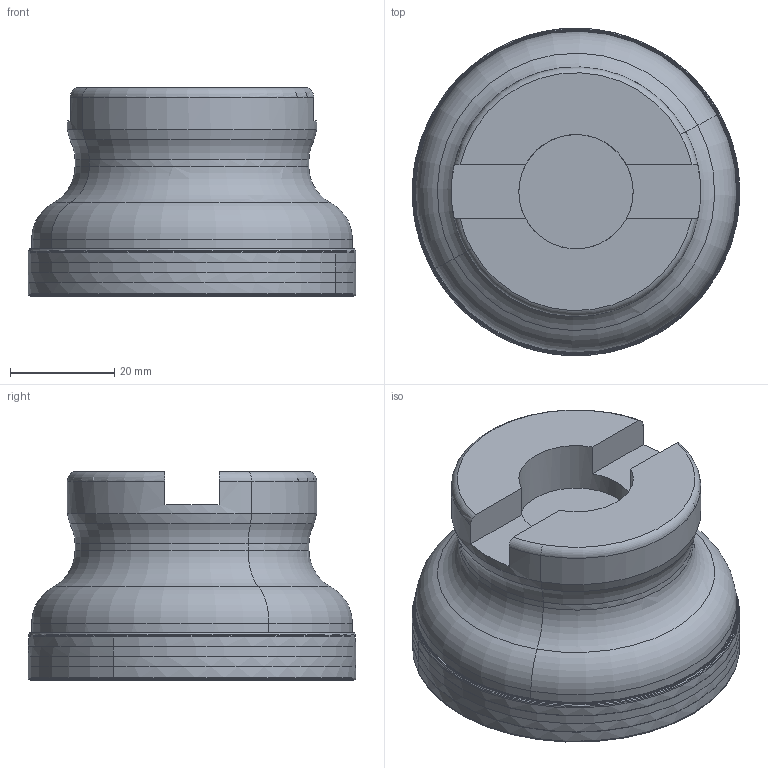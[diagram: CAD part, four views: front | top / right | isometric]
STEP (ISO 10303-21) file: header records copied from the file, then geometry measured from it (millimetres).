
FILE_DESCRIPTION(('CATIA V5 STEP','CAx-IF Rec.Pracs.--- Model Styling and Organization---1.2---2011-12-15'),'2;1');
FILE_NAME('N:\data\isr\design\special1\users\EVA_U\Requests\NPA\3106658_H690 F90AX D063-8-22-10\H690 F90AX D063-8-22-10.stp','2016-12-21T06:44:03+00:00',('none'),('none'),'CATIA Version 5 Release 21 SP 5 (IN-10)','CATIA V5 STEP AP214','none');
FILE_SCHEMA(('AUTOMOTIVE_DESIGN { 1 0 10303 214 1 1 1 1 }'));
Length unit declared in the file: millimetre
Products named in the file (1): H690 F90AX D063-8-22-10
Bounding box: 63 x 62.98 x 40 mm (x, y, z)
Volume: 88212.2 mm3; surface area: 17480.9 mm2
Topology: 2 solids, 2 shells, 157 faces, 332 edges, 178 vertices
Faces by surface type: cone 68, torus 44, cylinder 18, revolution 16, plane 11
Entity records: 4559 total; most frequent: CARTESIAN_POINT 1190, ORIENTED_EDGE 664, DIRECTION 597, AXIS2_PLACEMENT_3D 341, EDGE_CURVE 332, CIRCLE 201, VERTEX_POINT 178, EDGE_LOOP 158
